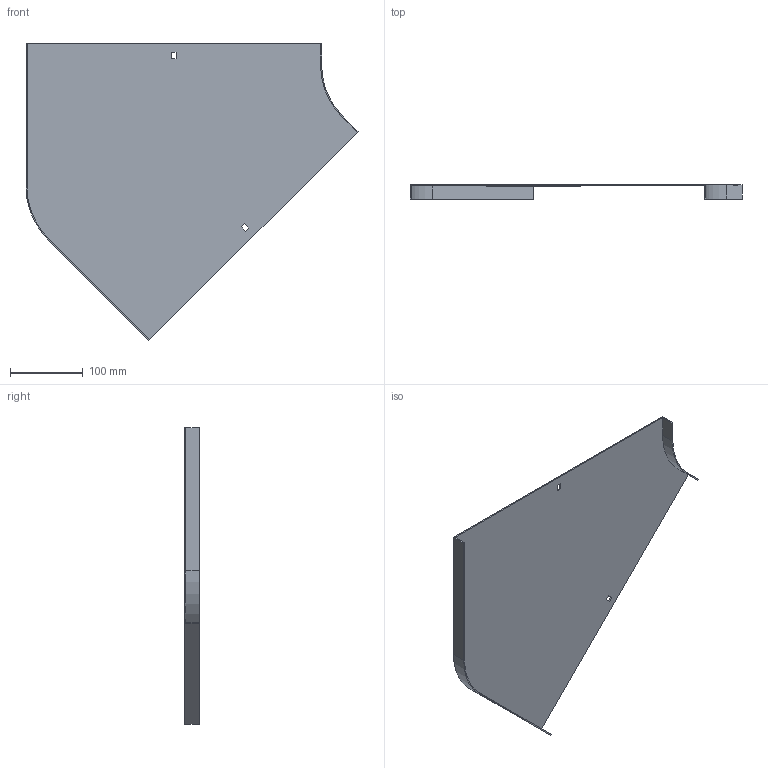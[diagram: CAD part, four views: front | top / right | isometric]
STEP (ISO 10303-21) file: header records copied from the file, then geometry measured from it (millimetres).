
FILE_DESCRIPTION (( 'STEP AP214' ), '1' );
FILE_NAME ('11G1P400.step', '2025-02-21T12:46:04', ( '' ), ( '' ), 'SwSTEP 2.0', 'SolidWorks 2023', '' );
FILE_SCHEMA (( 'AUTOMOTIVE_DESIGN' ));
Length unit declared in the file: millimetre
Products named in the file (1): 11G1P400
Bounding box: 457.06 x 20 x 408.66 mm (x, y, z)
Volume: 206149.5 mm3; surface area: 277208.7 mm2
Topology: 1 solids, 1 shells, 26 faces, 72 edges, 48 vertices
Faces by surface type: plane 22, cylinder 4
Entity records: 855 total; most frequent: CARTESIAN_POINT 147, ORIENTED_EDGE 144, DIRECTION 134, EDGE_CURVE 72, VECTOR 64, LINE 64, VERTEX_POINT 48, AXIS2_PLACEMENT_3D 35
